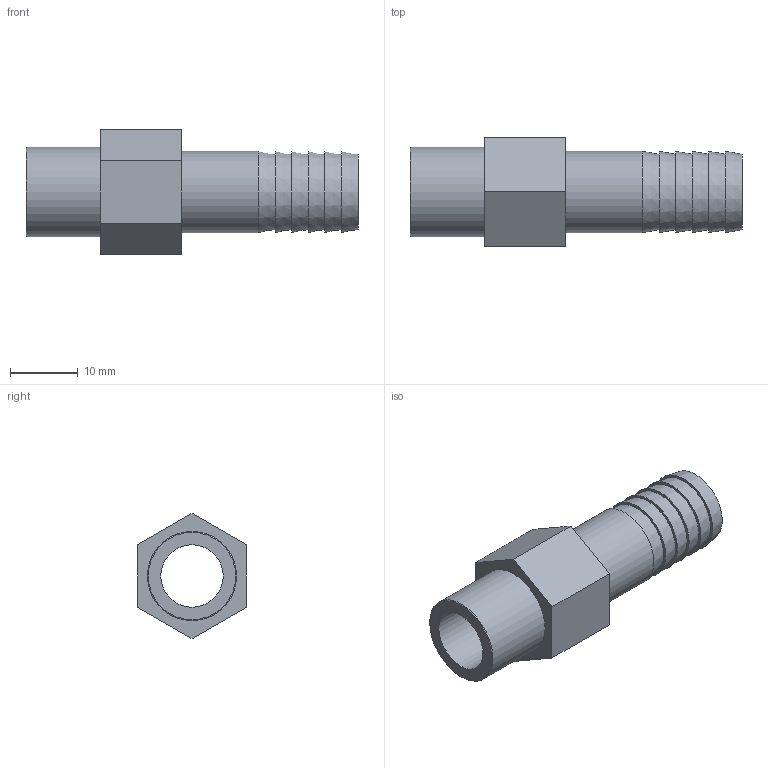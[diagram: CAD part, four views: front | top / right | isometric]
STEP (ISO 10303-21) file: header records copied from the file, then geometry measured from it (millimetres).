
FILE_DESCRIPTION(/* description */ ('PLASSON THREADED HOSE NOZZLE 1/4"-12'),/* implementation_level */ '2;1');
FILE_NAME(/* name */ 'C:\Dropbox\KIMPROJECTS-Inventor\99-16-3568-Processing\PVC Catalog 2017\053601\053601012004.ipt.stp',/* time_stamp */ '2017-12-07T16:03:18+02:00',/* author */ ('KIM'),/* organization */ (''),/* preprocessor_version */ 'ST-DEVELOPER v15.6',/* originating_system */ 'Autodesk Inventor 2015',/* authorisation */ '');
FILE_SCHEMA (('AUTOMOTIVE_DESIGN { 1 0 10303 214 3 1 1 }'));
Length unit declared in the file: millimetre
Products named in the file (1): 053601012004
Bounding box: 49 x 16 x 18.48 mm (x, y, z)
Volume: 3715.2 mm3; surface area: 3876.8 mm2
Topology: 1 solids, 1 shells, 25 faces, 46 edges, 30 vertices
Faces by surface type: plane 15, cone 6, cylinder 3, torus 1
Full cylindrical faces by diameter (mm): 9.21 x1, 12 x1, 13.157 x1
Entity records: 600 total; most frequent: DIRECTION 106, CARTESIAN_POINT 92, ORIENTED_EDGE 72, EDGE_LOOP 44, AXIS2_PLACEMENT_3D 44, EDGE_CURVE 36, VERTEX_POINT 30, FACE_OUTER_BOUND 25
